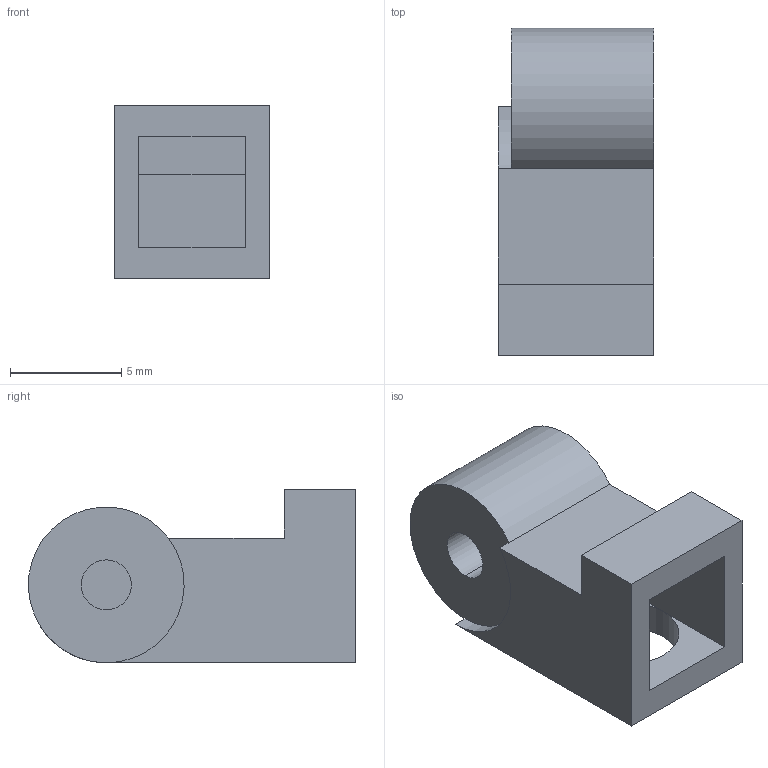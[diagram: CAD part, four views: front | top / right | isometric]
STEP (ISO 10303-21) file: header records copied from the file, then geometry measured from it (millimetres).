
FILE_DESCRIPTION (( 'STEP AP203' ), '1' );
FILE_NAME ('Lego Character - Left Leg.STEP', '2015-12-11T18:48:46', ( '' ), ( '' ), 'SwSTEP 2.0', 'SolidWorks 2014', '' );
FILE_SCHEMA (( 'CONFIG_CONTROL_DESIGN' ));
Length unit declared in the file: millimetre
Products named in the file (2): Lego Character - Left Leg
Bounding box: 7 x 14.7 x 7.8 mm (x, y, z)
Volume: 361.6 mm3; surface area: 692.6 mm2
Topology: 1 solids, 1 shells, 30 faces, 80 edges, 52 vertices
Faces by surface type: plane 21, cylinder 9
Entity records: 1130 total; most frequent: CARTESIAN_POINT 210, ORIENTED_EDGE 160, DIRECTION 159, EDGE_CURVE 80, VECTOR 53, AXIS2_PLACEMENT_3D 53, LINE 53, VERTEX_POINT 52
